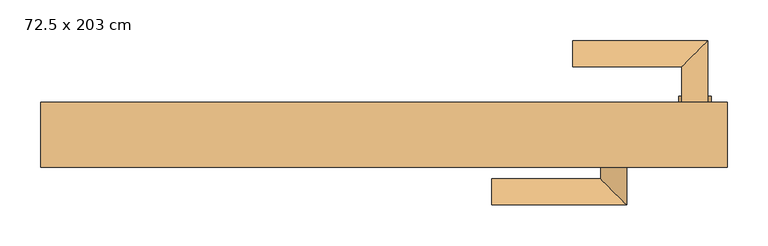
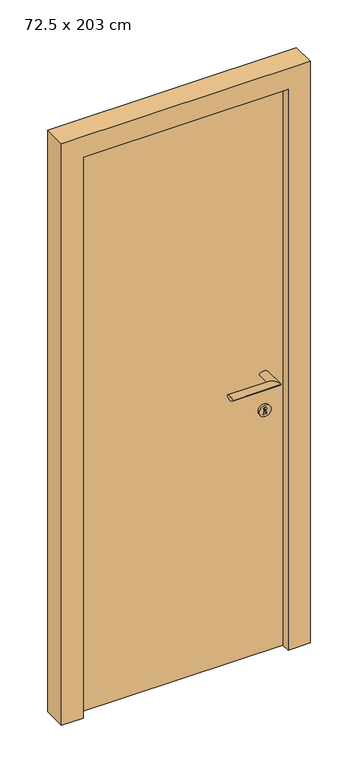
"""IFC4 building model written with IfcOpenShell, lengths in millimetres: door geometry, Puerta abatible ciega con ventilación : 72.5 x 203 cm."""

import ifcopenshell
import ifcopenshell.guid

model = None  # the IFC model being written
_history = None  # IfcOwnerHistory: only IFC2X3 demands one
_inside = {}  # id of a spatial element -> (the spatial element, [elements in it])
_under = {}  # id of a project, library or spatial element -> (it, [spatial elements below it])
_declared = {}  # id of a project -> (the project, [libraries it declares])
_typed = {}  # id of a type object -> (the type object, [elements of that type])
_made_of = {}  # id of a material, layer set ... -> (it, [elements and type objects made of it])


def new_model(schema):
    """Start an empty IFC model of exactly this schema.

    Asked for "IFC4X3", IfcOpenShell would pick the latest addendum, in which some entities
    have other attributes; the version numbers below select the first issue.
    IFC2X3 requires an IfcOwnerHistory on every rooted entity: one is made here for all.
    """
    global model, _history
    if schema == "IFC4X3":
        model = ifcopenshell.file(schema_version=(4, 3, 0, 0))
    else:
        model = ifcopenshell.file(schema=schema)
    _inside.clear()
    _under.clear()
    _declared.clear()
    _typed.clear()
    _made_of.clear()
    _history = None
    if model.schema == "IFC2X3":
        org = make("IfcOrganization", Name="unknown")
        user = make(
            "IfcPersonAndOrganization",
            ThePerson=make("IfcPerson", FamilyName="unknown"),
            TheOrganization=org,
        )
        app = make(
            "IfcApplication",
            ApplicationDeveloper=org,
            Version="unknown",
            ApplicationFullName="unknown",
            ApplicationIdentifier="unknown",
        )
        _history = make(
            "IfcOwnerHistory",
            OwningUser=user,
            OwningApplication=app,
            ChangeAction="ADDED",
            CreationDate=0,
        )
    return model


def make(cls, **values):
    """One entity of the class cls with the attributes given. An attribute that is None is left unset."""
    return model.create_entity(
        cls, **{name: value for name, value in values.items() if value is not None}
    )


def rooted(cls, **values):
    """An entity with a GlobalId (a new one), such as an element, a storey or a relation."""
    return make(cls, GlobalId=ifcopenshell.guid.new(), OwnerHistory=_history, **values)


def si_unit(unit_type, name, prefix=None):
    """IfcSIUnit, for example si_unit("LENGTHUNIT", "METRE", prefix="MILLI")."""
    return make("IfcSIUnit", UnitType=unit_type, Prefix=prefix, Name=name)


def assignment(units):
    """IfcUnitAssignment: the units of a project."""
    return None if units is None else make("IfcUnitAssignment", Units=units)


def point(xyz):
    """IfcCartesianPoint."""
    return None if xyz is None else make("IfcCartesianPoint", Coordinates=xyz)


def direction(xyz):
    """IfcDirection."""
    return None if xyz is None else make("IfcDirection", DirectionRatios=xyz)


def frame(location, z_axis=None, x_axis=None):
    """IfcAxis2Placement3D, a coordinate frame: its origin and axes. An axis left out is left unset."""
    return make(
        "IfcAxis2Placement3D",
        Location=point(location),
        Axis=direction(z_axis),
        RefDirection=direction(x_axis),
    )


def frame_2d(location, x_axis=None):
    """IfcAxis2Placement2D, a coordinate frame in the plane: its origin and x axis."""
    return make(
        "IfcAxis2Placement2D", Location=point(location), RefDirection=direction(x_axis)
    )


def origin():
    """The frame at (0, 0, 0) with its axes left unset."""
    return frame((0.0, 0.0, 0.0))


def origin_with_axes():
    """The frame at (0, 0, 0) with the z axis (0, 0, 1) and the x axis (1, 0, 0) written out."""
    return frame((0.0, 0.0, 0.0), z_axis=(0.0, 0.0, 1.0), x_axis=(1.0, 0.0, 0.0))


def place(relative_to, where):
    """IfcLocalPlacement: puts the frame where relative to a parent placement (None: the world)."""
    return make(
        "IfcLocalPlacement", PlacementRelTo=relative_to, RelativePlacement=where
    )


def context(
    kind, dimensions, precision=None, world=None, true_north=None, identifier=None
):
    """IfcGeometricRepresentationContext, for example the 3D "Model" context."""
    return make(
        "IfcGeometricRepresentationContext",
        ContextIdentifier=identifier,
        ContextType=kind,
        CoordinateSpaceDimension=dimensions,
        Precision=precision,
        WorldCoordinateSystem=world,
        TrueNorth=true_north,
    )


def project(units=None, contexts=None):
    """IfcProject with its units and contexts."""
    return rooted(
        "IfcProject",
        Name="project",
        RepresentationContexts=contexts,
        UnitsInContext=assignment(units),
    )


def spatial(cls, under=None, at=None, **own):
    """A site, building, storey or space (cls), placed at a placement, below another one or the project."""
    s = rooted(cls, ObjectPlacement=at, **own)
    if under is not None:
        _under.setdefault(under.id(), (under, []))[1].append(s)
    return s


def polyline(points):
    """IfcPolyline through the points."""
    return make("IfcPolyline", Points=[point(p) for p in points])


def circle_curve(where, radius):
    """IfcCircle in the frame where."""
    return make("IfcCircle", Position=where, Radius=radius)


def ellipse_curve(where, semi_axis1, semi_axis2):
    """IfcEllipse in the frame where."""
    return make(
        "IfcEllipse", Position=where, SemiAxis1=semi_axis1, SemiAxis2=semi_axis2
    )


def trimmed(basis, trim1, trim2, sense, master):
    """IfcTrimmedCurve: the piece of a basis curve between two trims."""
    return make(
        "IfcTrimmedCurve",
        BasisCurve=basis,
        Trim1=trim1,
        Trim2=trim2,
        SenseAgreement=sense,
        MasterRepresentation=master,
    )


def segment(curve, same_sense, transition):
    """IfcCompositeCurveSegment."""
    return make(
        "IfcCompositeCurveSegment",
        Transition=transition,
        SameSense=same_sense,
        ParentCurve=curve,
    )


def composite_curve(segments, self_intersect=None):
    """IfcCompositeCurve: segments joined end to end."""
    return make("IfcCompositeCurve", Segments=segments, SelfIntersect=self_intersect)


def outline(outer, holes=None, kind="AREA"):
    """IfcArbitraryClosedProfileDef: a profile drawn as a closed curve; with holes, ...WithVoids."""
    if holes is None:
        return make("IfcArbitraryClosedProfileDef", ProfileType=kind, OuterCurve=outer)
    return make(
        "IfcArbitraryProfileDefWithVoids",
        ProfileType=kind,
        OuterCurve=outer,
        InnerCurves=holes,
    )


def extrude(swept, where, along, depth):
    """IfcExtrudedAreaSolid: the profile swept, set in the frame where, extruded along a direction by depth."""
    return make(
        "IfcExtrudedAreaSolid",
        SweptArea=swept,
        Position=where,
        ExtrudedDirection=direction(along),
        Depth=depth,
    )


def faces_of(points, faces, orient=None, outer=None):
    """IfcFace entities. A face is a list of loops; a loop is a list of indices into points, from 0.

    orient and outer hold one flag for each loop. By default every Orientation is true, the
    first loop of a face is its IfcFaceOuterBound and the others are IfcFaceBound.
    """
    made = []
    for i, loops in enumerate(faces):
        bounds = []
        for j, loop in enumerate(loops):
            is_outer = j == 0 if outer is None else outer[i][j]
            bounds.append(
                make(
                    "IfcFaceOuterBound" if is_outer else "IfcFaceBound",
                    Bound=make("IfcPolyLoop", Polygon=[points[k] for k in loop]),
                    Orientation=True if orient is None else orient[i][j],
                )
            )
        made.append(make("IfcFace", Bounds=bounds))
    return made


def faceted_brep(points, faces, orient=None, outer=None, voids=None):
    """IfcFacetedBrep: a solid bounded by flat faces; with voids (closed shells), ...WithVoids."""
    shared = [point(p) for p in points]
    hull = make("IfcClosedShell", CfsFaces=faces_of(shared, faces, orient, outer))
    if voids is None:
        return make("IfcFacetedBrep", Outer=hull)
    return make(
        "IfcFacetedBrepWithVoids",
        Outer=hull,
        Voids=[
            make(cls, CfsFaces=faces_of(shared, fs, o, b)) for cls, fs, o, b in voids
        ],
    )


def shape(context_of_items, identifier, shape_type, items):
    """IfcShapeRepresentation: the items that make up one representation, for example the "Body"."""
    return make(
        "IfcShapeRepresentation",
        ContextOfItems=context_of_items,
        RepresentationIdentifier=identifier,
        RepresentationType=shape_type,
        Items=items,
    )


def source(mapping_origin, context_of_items, identifier, shape_type, items):
    """IfcRepresentationMap: a shape defined once, which mapped items show again and again."""
    return make(
        "IfcRepresentationMap",
        MappingOrigin=mapping_origin,
        MappedRepresentation=shape(context_of_items, identifier, shape_type, items),
    )


def transform(
    local_origin,
    x_axis=None,
    y_axis=None,
    z_axis=None,
    scale=None,
    scale2=None,
    scale3=None,
    uniform=True,
):
    """IfcCartesianTransformationOperator3D, or its non-uniform kind. x_axis, y_axis, z_axis: its Axis1, 2, 3."""
    if uniform:
        return make(
            "IfcCartesianTransformationOperator3D",
            Axis1=direction(x_axis),
            Axis2=direction(y_axis),
            LocalOrigin=point(local_origin),
            Scale=scale,
            Axis3=direction(z_axis),
        )
    return make(
        "IfcCartesianTransformationOperator3DnonUniform",
        Axis1=direction(x_axis),
        Axis2=direction(y_axis),
        LocalOrigin=point(local_origin),
        Scale=scale,
        Axis3=direction(z_axis),
        Scale2=scale2,
        Scale3=scale3,
    )


def mapped(mapping_source, mapping_target):
    """IfcMappedItem: shows the shape of a source again, moved by a transform."""
    return make(
        "IfcMappedItem", MappingSource=mapping_source, MappingTarget=mapping_target
    )


def made_of(thing, what):
    """Note that an element or type object is made of a material, layer set ...; save() writes the relation."""
    if what is not None:
        _made_of.setdefault(what.id(), (what, []))[1].append(thing)
    return thing


def element(
    cls,
    number,
    at=None,
    inside=None,
    cuts=None,
    type_object=None,
    material=None,
    context=None,
    identifier="Body",
    shape_type=None,
    held_by="IfcProductDefinitionShape",
    body=None,
    shapes=None,
    **own,
):
    """One element of the class cls, such as IfcWall. Its Tag is "e" and its number.

    at: its placement. inside: the storey or other place that contains it. cuts: it is an
    opening in that element (IfcRelVoidsElement). A single representation is given by context,
    identifier, shape_type and body (its items); several are given by shapes. held_by: the class
    of the entity that holds the representations. save() writes the other relations.
    """
    e = rooted(cls, Tag="e%d" % number, ObjectPlacement=at, **own)
    if body is not None:
        shapes = [shape(context, identifier, shape_type, body)]
    if shapes is not None:
        e.Representation = make(held_by, Representations=shapes)
    if inside is not None:
        _inside.setdefault(inside.id(), (inside, []))[1].append(e)
    if cuts is not None:
        rooted(
            "IfcRelVoidsElement", RelatingBuildingElement=cuts, RelatedOpeningElement=e
        )
    if type_object is not None:
        _typed.setdefault(type_object.id(), (type_object, []))[1].append(e)
    return made_of(e, material)


def aggregate(whole, parts):
    """IfcRelAggregates: a whole, such as a stair, and the parts it consists of."""
    return rooted("IfcRelAggregates", RelatingObject=whole, RelatedObjects=parts)


def save(model, path):
    """Write the relations noted so far, then the file.

    IfcRelAggregates (storeys below a building ...), IfcRelContainedInSpatialStructure (elements
    in a storey), IfcRelDefinesByType, IfcRelAssociatesMaterial and IfcRelDeclares: one each for
    every whole, place, type object, material and project.
    """
    for whole, parts in _under.values():
        aggregate(whole, parts)
    for where, things in _inside.values():
        rooted(
            "IfcRelContainedInSpatialStructure",
            RelatedElements=things,
            RelatingStructure=where,
        )
    for kind, things in _typed.values():
        rooted("IfcRelDefinesByType", RelatedObjects=things, RelatingType=kind)
    for what, things in _made_of.values():
        rooted("IfcRelAssociatesMaterial", RelatedObjects=things, RelatingMaterial=what)
    for by, libraries in _declared.values():
        rooted("IfcRelDeclares", RelatingContext=by, RelatedDefinitions=libraries)
    model.write(path)


def plane_surface(at):
    """IfcPlane: the flat surface through the origin of the frame at, square to its z axis."""
    return make("IfcPlane", Position=at)


def cylinder_surface(at, radius):
    """IfcCylindricalSurface: all points at the distance radius from the z axis of the frame at."""
    return make("IfcCylindricalSurface", Position=at, Radius=radius)


def advanced_brep(points, edges, surfaces, faces):
    """IfcAdvancedBrep: a solid bounded by faces that lie on surfaces and meet in shared edges.

    An edge is (start, end): straight between two places in points (the first is 0);
    or (start, end, curve); or (start, end, curve, False) where it runs against its curve.
    A face is (place in surfaces, loops), or (place, loops, False) where it looks against
    its surface's normal. A loop lists edges by number (the first is 1), with a minus sign
    where the edge is run from its end to its start. The first loop is the outer one.
    """
    corners = [point(p) for p in points]
    vertices = [make("IfcVertexPoint", VertexGeometry=c) for c in corners]
    made = []
    for start, end, *more in edges:
        made.append(
            make(
                "IfcEdgeCurve",
                EdgeStart=vertices[start],
                EdgeEnd=vertices[end],
                EdgeGeometry=more[0] if more else make("IfcPolyline", Points=[corners[start], corners[end]]),
                SameSense=more[1] if len(more) > 1 else True,
            )
        )
    hull = []
    for where, loops, *sense in faces:
        bounds = []
        for j, loop in enumerate(loops):
            ring = [make("IfcOrientedEdge", EdgeElement=made[abs(k) - 1], Orientation=k > 0) for k in loop]
            bounds.append(
                make(
                    "IfcFaceOuterBound" if j == 0 else "IfcFaceBound",
                    Bound=make("IfcEdgeLoop", EdgeList=ring),
                    Orientation=True,
                )
            )
        hull.append(make("IfcAdvancedFace", Bounds=bounds, FaceSurface=surfaces[where], SameSense=sense[0] if sense else True))
    return make("IfcAdvancedBrep", Outer=make("IfcClosedShell", CfsFaces=hull))


def door_72_5_x_203_cm_2e9c9844(model_context):
    return source(origin(), model_context, "Body", "SolidModel", [
        extrude(outline(composite_curve([segment(trimmed(circle_curve(frame_2d((869.9969135, 382.5)), 20.0), [point((869.9969135, 402.5))], [point((869.9969135, 362.5))], False, "CARTESIAN"), True, "CONTINUOUS"), segment(trimmed(circle_curve(frame_2d((869.9969135, 382.5)), 20.0), [point((869.9969135, 362.5))], [point((869.9969135, 402.5))], False, "CARTESIAN"), True, "CONTINUOUS")], self_intersect=False), holes=[composite_curve([segment(polyline([(858.2683183, 376.6141388), (872.8227542, 380.2429672)]), True, "CONTINUOUS"), segment(trimmed(circle_curve(frame_2d((877.2843462, 382.5)), 5.0), [point((872.8227542, 380.2429672))], [point((872.8227542, 384.7570328))], True, "CARTESIAN"), True, "CONTINUOUS"), segment(polyline([(872.8227542, 384.7570328), (858.2683183, 388.3858612), (858.2683183, 376.6141388)]), True, "CONTINUOUS")], self_intersect=False)]), frame((0.0, 40.0, 0.0), z_axis=(0.0, 1.0, 0.0), x_axis=(0.0, 0.0, 1.0)), (0.0, 0.0, 1.0), 8.0),
        advanced_brep(
        [(366.5, 40.0, 1000.0), (398.5, 40.0, 1000.0), (366.5, 84.0, 1000.0), (398.5, 116.0, 1000.0), (232.5, 84.0, 1000.0), (232.5, 116.0, 1000.0)],
        [
            (0, 1, circle_curve(frame((382.5, 40.0, 1011.8032746), z_axis=(0.0, -1.0, 0.0), x_axis=(1.0, 0.0, 0.0)), 19.8825877)),
            (1, 0, circle_curve(frame((382.5, 40.0, 988.1967254), z_axis=(0.0, -1.0, 0.0), x_axis=(1.0, 0.0, 0.0)), 19.8825877)),
            (0, 2),
            (2, 3, ellipse_curve(frame((382.5, 100.0, 1011.8032746), z_axis=(0.7071067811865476, -0.7071067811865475, 0.0), x_axis=(-0.7071067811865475, -0.7071067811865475, 0.0)), 28.1182251, 19.8825877)),
            (3, 1),
            (3, 2, ellipse_curve(frame((382.5, 100.0, 988.1967254), z_axis=(0.7071067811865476, -0.7071067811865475, 0.0), x_axis=(-0.7071067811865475, -0.7071067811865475, 0.0)), 28.1182251, 19.8825877)),
            (4, 5, circle_curve(frame((232.5, 100.0, 988.1967254), z_axis=(-1.0, 0.0, 0.0), x_axis=(0.0, 1.0, 0.0)), 19.8825877)),
            (5, 4, circle_curve(frame((232.5, 100.0, 1011.8032746), z_axis=(-1.0, 0.0, 0.0), x_axis=(0.0, 1.0, 0.0)), 19.8825877)),
            (2, 4),
            (5, 3),
        ],
        [
            plane_surface(frame((382.5, 40.0, 1000.0), z_axis=(0.0, -1.0, 0.0), x_axis=(0.0, 0.0, -1.0))),
            cylinder_surface(frame((382.5, 40.0, 1011.8032746), z_axis=(0.0, -1.0, 0.0), x_axis=(1.0, 0.0, 0.0)), 19.8825877),
            cylinder_surface(frame((382.5, 40.0, 988.1967254), z_axis=(0.0, -1.0, 0.0), x_axis=(1.0, 0.0, 0.0)), 19.8825877),
            plane_surface(frame((232.5, 100.0, 1000.0), z_axis=(-1.0, 0.0, 0.0), x_axis=(0.0, 0.0, -1.0))),
            cylinder_surface(frame((382.5, 100.0, 1011.8032746), z_axis=(1.0, 0.0, 0.0), x_axis=(0.0, 1.0, 0.0)), 19.8825877),
            cylinder_surface(frame((382.5, 100.0, 988.1967254), z_axis=(1.0, 0.0, 0.0), x_axis=(0.0, 1.0, 0.0)), 19.8825877),
        ],
        [
            (0, [[1, 2]]),
            (1, [[-1, 3, 4, 5]]),
            (2, [[-2, -5, 6, -3]]),
            (3, [[7, 8]]),
            (4, [[-4, 9, -8, 10]]),
            (5, [[-6, -10, -7, -9]]),
        ],
    ),
        extrude(outline(composite_curve([segment(trimmed(circle_curve(frame_2d((869.9969135, 282.5)), 20.0), [point((869.9969135, 262.5))], [point((869.9969135, 302.5))], False, "CARTESIAN"), True, "CONTINUOUS"), segment(trimmed(circle_curve(frame_2d((869.9969135, 282.5)), 20.0), [point((869.9969135, 302.5))], [point((869.9969135, 262.5))], False, "CARTESIAN"), True, "CONTINUOUS")], self_intersect=False), holes=[composite_curve([segment(polyline([(872.8227542, 284.7570328), (858.2683183, 288.3858612), (858.2683183, 276.6141388), (872.8227542, 280.2429672)]), True, "CONTINUOUS"), segment(trimmed(circle_curve(frame_2d((877.2843462, 282.5)), 5.0), [point((872.8227542, 280.2429672))], [point((872.8227542, 284.7570328))], True, "CARTESIAN"), True, "CONTINUOUS")], self_intersect=False)]), frame((0.0, -18.0, 0.0), z_axis=(0.0, 1.0, 0.0), x_axis=(0.0, 0.0, 1.0)), (0.0, 0.0, 1.0), 8.0),
        advanced_brep(
        [(298.5, -10.0, 1000.0), (266.5, -10.0, 1000.0), (298.5, -86.0, 1000.0), (266.5, -54.0, 1000.0), (132.5, -86.0, 1000.0), (132.5, -54.0, 1000.0)],
        [
            (0, 1, circle_curve(frame((282.5, -10.0, 1011.8032746), z_axis=(0.0, 1.0, 0.0), x_axis=(-1.0, 0.0, 0.0)), 19.8825877)),
            (1, 0, circle_curve(frame((282.5, -10.0, 988.1967254), z_axis=(0.0, 1.0, 0.0), x_axis=(-1.0, 0.0, 0.0)), 19.8825877)),
            (0, 2),
            (2, 3, ellipse_curve(frame((282.5, -70.0, 1011.8032746), z_axis=(0.7071067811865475, 0.7071067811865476, 0.0), x_axis=(-0.7071067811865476, 0.7071067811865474, 0.0)), 28.1182251, 19.8825877)),
            (3, 1),
            (3, 2, ellipse_curve(frame((282.5, -70.0, 988.1967254), z_axis=(0.7071067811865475, 0.7071067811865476, 0.0), x_axis=(-0.7071067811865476, 0.7071067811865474, 0.0)), 28.1182251, 19.8825877)),
            (4, 5, circle_curve(frame((132.5, -70.0, 988.1967254), z_axis=(-1.0, 0.0, 0.0), x_axis=(0.0, 1.0, 0.0)), 19.8825877)),
            (5, 4, circle_curve(frame((132.5, -70.0, 1011.8032746), z_axis=(-1.0, 0.0, 0.0), x_axis=(0.0, 1.0, 0.0)), 19.8825877)),
            (2, 4),
            (5, 3),
        ],
        [
            plane_surface(frame((282.5, -10.0, 1000.0), z_axis=(0.0, 1.0, 0.0), x_axis=(0.0, 0.0, -1.0))),
            cylinder_surface(frame((282.5, -10.0, 1011.8032746), z_axis=(0.0, 1.0, 0.0), x_axis=(-1.0, 0.0, 0.0)), 19.8825877),
            cylinder_surface(frame((282.5, -10.0, 988.1967254), z_axis=(0.0, 1.0, 0.0), x_axis=(-1.0, 0.0, 0.0)), 19.8825877),
            plane_surface(frame((132.5, -70.0, 1000.0), z_axis=(-1.0, 0.0, 0.0), x_axis=(0.0, 0.0, -1.0))),
            cylinder_surface(frame((282.5, -70.0, 1011.8032746), z_axis=(1.0, 0.0, 0.0), x_axis=(0.0, 1.0, 0.0)), 19.8825877),
            cylinder_surface(frame((282.5, -70.0, 988.1967254), z_axis=(1.0, 0.0, 0.0), x_axis=(0.0, 1.0, 0.0)), 19.8825877),
        ],
        [
            (0, [[1, 2]]),
            (1, [[-1, 3, 4, 5]]),
            (2, [[-2, -5, 6, -3]]),
            (3, [[7, 8]]),
            (4, [[-4, 9, -8, 10]]),
            (5, [[-6, -10, -7, -9]]),
        ],
    ),
        extrude(outline(polyline([(362.5, 40.0), (362.5, -10.0), (-362.5, -10.0), (-362.5, 40.0), (362.5, 40.0)])), origin_with_axes(), (0.0, 0.0, 1.0), 2030.0),
        faceted_brep([(422.5, -40.0, 0.0), (347.5, -40.0, 0.0), (347.5, -10.0, 0.0), (362.5, -10.0, 0.0), (362.5, 40.0, 0.0), (422.5, 40.0, 0.0), (422.5, -40.0, 2090.0), (-422.5, -40.0, 2090.0), (-422.5, -40.0, 0.0), (-347.5, -40.0, 0.0), (-347.5, -40.0, 2015.0), (347.5, -40.0, 2015.0), (347.5, -10.0, 2015.0), (-347.5, -10.0, 2015.0), (-347.5, -10.0, 0.0), (-362.5, -10.0, 0.0), (-362.5, -10.0, 2030.0), (362.5, -10.0, 2030.0), (362.5, 40.0, 2030.0), (-362.5, 40.0, 2030.0), (-362.5, 40.0, 0.0), (-422.5, 40.0, 0.0), (-422.5, 40.0, 2090.0), (422.5, 40.0, 2090.0)], [[[0, 1, 2, 3, 4, 5]], [[1, 0, 6, 7, 8, 9, 10, 11]], [[2, 1, 11, 12]], [[3, 2, 12, 13, 14, 15, 16, 17]], [[4, 3, 17, 18]], [[5, 4, 18, 19, 20, 21, 22, 23]], [[0, 5, 23, 6]], [[7, 22, 21, 8]], [[8, 21, 20, 15, 14, 9]], [[13, 10, 9, 14]], [[19, 16, 15, 20]], [[12, 11, 10, 13]], [[18, 17, 16, 19]], [[6, 23, 22, 7]]]),
    ])


if __name__ == "__main__":
    model = new_model("IFC4")
    model_context = context("Model", 3, world=origin())
    ifc_project = project(units=[si_unit("LENGTHUNIT", "METRE", prefix="MILLI")], contexts=[model_context])
    site = spatial("IfcSite", under=ifc_project)
    building = spatial("IfcBuilding", under=site)
    placement = place(None, origin())
    door_72_5_x_203_cm_shape = door_72_5_x_203_cm_2e9c9844(model_context)
    element("IfcDoor", 1, ObjectType="Puerta abatible ciega con ventilación : 72.5 x 203 cm", at=placement, inside=building, context=model_context, shape_type="MappedRepresentation", body=[
        mapped(door_72_5_x_203_cm_shape, transform((0.0, 0.0, 0.0), x_axis=(1.0, 0.0, 0.0), y_axis=(0.0, 1.0, 0.0), z_axis=(0.0, 0.0, 1.0))),
    ])
    save(model, "model.ifc")
